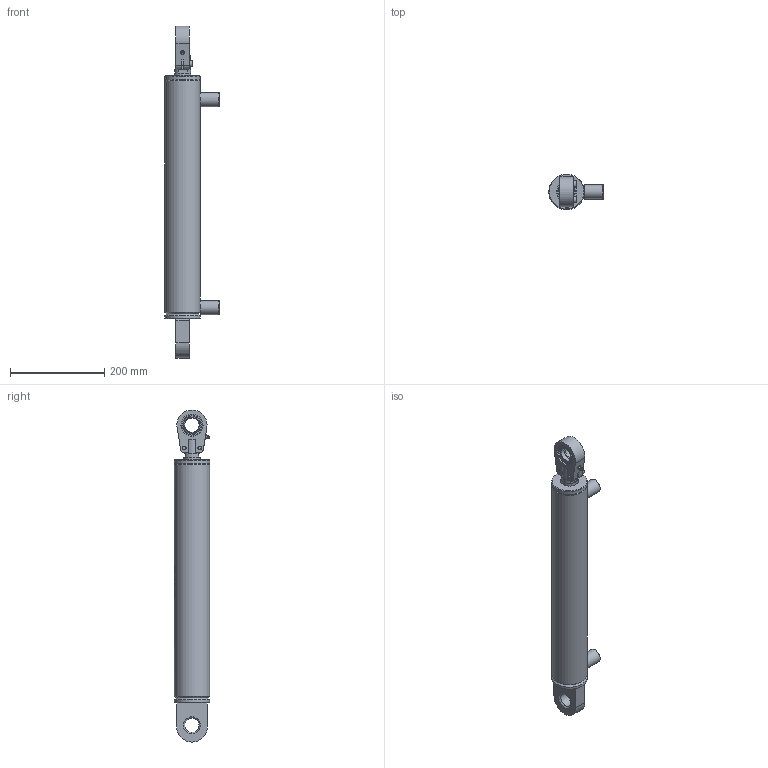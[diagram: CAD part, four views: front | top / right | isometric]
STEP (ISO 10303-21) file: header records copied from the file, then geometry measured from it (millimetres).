
FILE_DESCRIPTION(/* description */ (''),/* implementation_level */ '2;1');
FILE_NAME(/* name */ 'HC_A_63_35_400_OAMB.step',/* time_stamp */ '2023-06-11T20:00:10+03:00',/* author */ (''),/* organization */ (''),/* preprocessor_version */ 'ST-DEVELOPER v19.2',/* originating_system */ 'Autodesk Translation Framework v12.6.0.85',/* authorisation */ '');
FILE_SCHEMA (('AUTOMOTIVE_DESIGN { 1 0 10303 214 3 1 1 }'));
Length unit declared in the file: millimetre
Products named in the file (17): HC_A_63_35_50_ÖAMB_WEB; TAK_63_75; Ø63 x Ø75_HON_BORU__WEB; Bileşen1; Manşon_1_2; RMK_30; Ø35_K_MİL_WEB; Bileşen1_1; TDK_63_35; Bileşen1_2; RMV_30_GÜNCEL; inafag_gihrk30-do_aql6xce6znqv71fe0ns6e5y9m_01; inafag_gihrk30-do_aql6xce6znqv71fe0ns6e5y9m_02; inafag_gihrk30-do_aql6xce6znqv71fe0ns6e5y9m_03; inafag_gihrk30-do_aql6xce6znqv71fe0ns6e5y9m_04; inafag_gihrk30-do_aql6xce6znqv71fe0ns6e5y9m_05; inafag_gihrk30-do_aql6xce6znqv71fe0ns6e5y9m_06
Assembly tree (17 placements, depth 3):
  HC_A_63_35_50_ÖAMB_WEB
    TAK_63_75
    Ø63 x Ø75_HON_BORU__WEB
      Bileşen1
    Manşon_1_2  x2
    RMK_30
    Ø35_K_MİL_WEB
      Bileşen1_1
    TDK_63_35
      Bileşen1_2
    RMV_30_GÜNCEL
      inafag_gihrk30-do_aql6xce6znqv71fe0ns6e5y9m_01
      inafag_gihrk30-do_aql6xce6znqv71fe0ns6e5y9m_02
      inafag_gihrk30-do_aql6xce6znqv71fe0ns6e5y9m_03
      inafag_gihrk30-do_aql6xce6znqv71fe0ns6e5y9m_04
      inafag_gihrk30-do_aql6xce6znqv71fe0ns6e5y9m_05
      inafag_gihrk30-do_aql6xce6znqv71fe0ns6e5y9m_06
Bounding box: 115 x 75.17 x 703.5 mm (x, y, z)
Volume: 1222560.7 mm3; surface area: 349151.2 mm2
Topology: 14 solids, 16 shells, 779 faces, 2058 edges, 1366 vertices
Faces by surface type: bspline 370, plane 281, cylinder 80, cone 34, torus 12, sphere 2
Full cylindrical faces by diameter (mm): 2.5 x4, 3 x2, 4 x1, 8 x7, 13 x2, 19 x2, 20.376 x1, 21 x1, 29.85 x1, 30 x5, 35 x3, 38 x1, 43 x1, 45 x1, 46.342 x1, 47 x5, 49 x2, 60 x1, 63 x2, 64 x4, 67.5 x1, 67.85 x1, 75 x3
Entity records: 36259 total; most frequent: CARTESIAN_POINT 18758, ORIENTED_EDGE 4082, DIRECTION 2450, EDGE_CURVE 2041, VERTEX_POINT 1356, LINE 960, VECTOR 960, EDGE_LOOP 865
